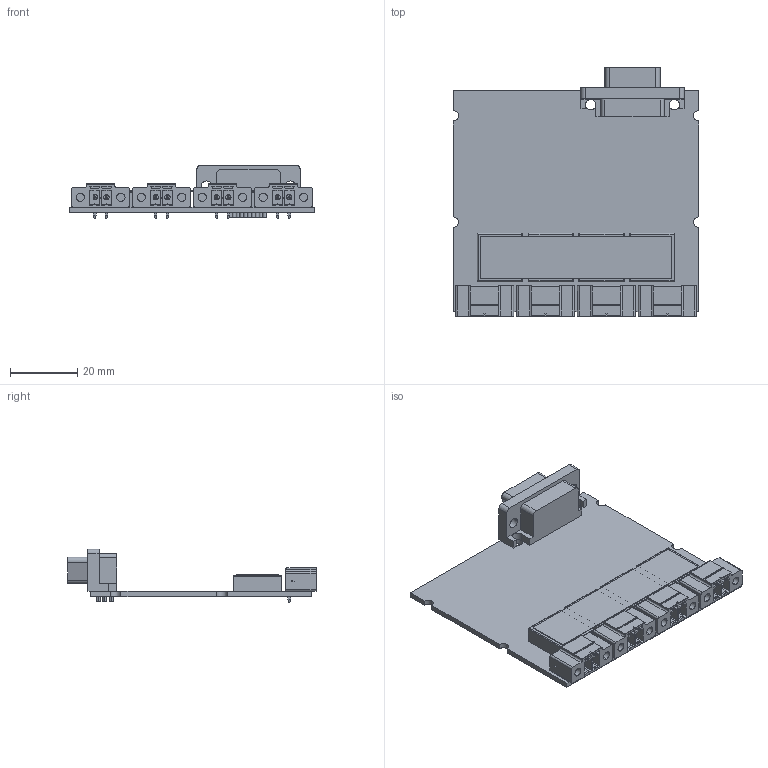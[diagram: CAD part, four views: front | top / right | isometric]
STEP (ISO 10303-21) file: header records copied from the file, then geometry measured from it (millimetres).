
FILE_DESCRIPTION((''),'2;1');
FILE_NAME('CD_NI_9229E','2010-02-05T',('scarrasc'),(''),'PRO/ENGINEER BY PARAMETRIC TECHNOLOGY CORPORATION, 2006080','PRO/ENGINEER BY PARAMETRIC TECHNOLOGY CORPORATION, 2006080','');
FILE_SCHEMA(('CONFIG_CONTROL_DESIGN'));
Length unit declared in the file: inch
Products named in the file (1): CD_NI_9229E
Bounding box: 73.38 x 74.07 x 15.95 mm (x, y, z)
Volume: 17012.3 mm3; surface area: 16689.4 mm2
Topology: 1 solids, 2 shells, 842 faces, 2172 edges, 1414 vertices
Faces by surface type: plane 580, cylinder 254, cone 8
Entity records: 26114 total; most frequent: CARTESIAN_POINT 5144, ORIENTED_EDGE 4344, DIRECTION 4296, EDGE_CURVE 2172, VECTOR 1636, LINE 1636, VERTEX_POINT 1414, AXIS2_PLACEMENT_3D 1330
